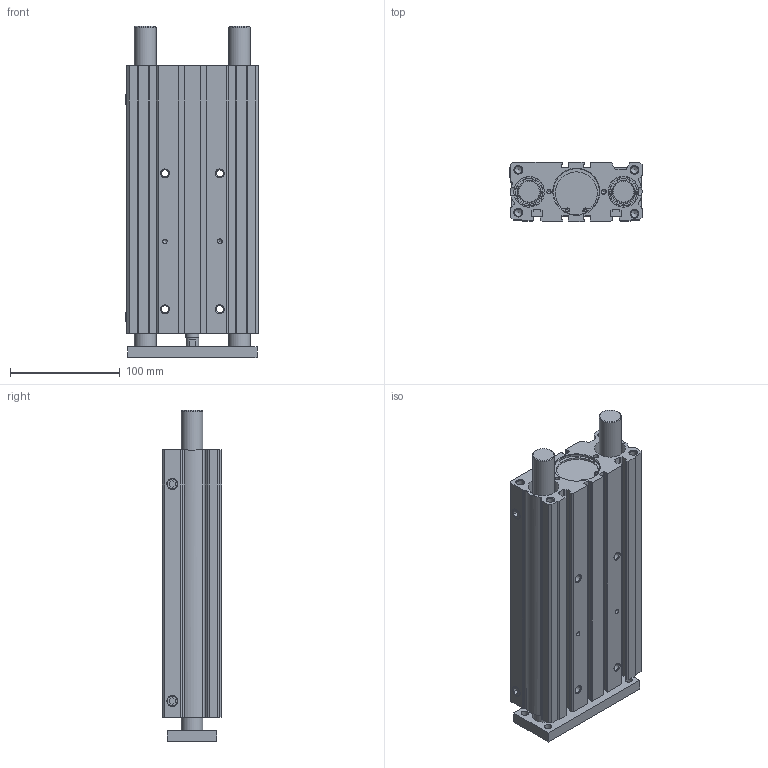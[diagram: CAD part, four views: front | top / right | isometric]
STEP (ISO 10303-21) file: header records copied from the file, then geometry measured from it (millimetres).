
FILE_DESCRIPTION(/* description */ ('Unknown'),/* implementation_level */ '2;1');
FILE_NAME(/* name */ 'EDMT 40_200',/* time_stamp */ '2025-01-30T09:46:21+01:00',/* author */ ('Unknown'),/* organization */ ('HAFNER Pneumatika Kft'),/* preprocessor_version */ 'ST-DEVELOPER v16.7',/* originating_system */ 'Solid Edge',/* authorisation */ 'Unknown');
FILE_SCHEMA (('AUTOMOTIVE_DESIGN {1 0 10303 214 3 1 1}'));
Length unit declared in the file: millimetre
Products named in the file (3): EDMT 40_200; Platte; Gehäuse
Assembly tree (2 placements, depth 2):
  EDMT 40_200
    Platte
    Gehäuse
Bounding box: 120.6 x 54 x 302 mm (x, y, z)
Volume: 1138666.9 mm3; surface area: 271614.2 mm2
Topology: 2 solids, 3 shells, 373 faces, 971 edges, 645 vertices
Faces by surface type: plane 181, cylinder 139, cone 47, torus 6
Full cylindrical faces by diameter (mm): 2.5 x4, 4 x6, 4.5 x2, 6.5 x4, 6.647 x16, 8.566 x2, 10 x3, 10.5 x1, 11 x4, 11.5 x1, 12 x2, 12.72 x1, 13 x2, 13.5 x2, 13.7 x1, 16.5 x2, 20 x2, 21 x2, 25.2 x2, 26 x1, 28 x4, 40 x2, 41.9 x1, 42 x4, 44.5 x2
Entity records: 12978 total; most frequent: DIRECTION 1820, CARTESIAN_POINT 1795, ORIENTED_EDGE 1544, EDGE_CURVE 772, AXIS2_PLACEMENT_3D 697, VERTEX_POINT 585, FACE_BOUND 583, EDGE_LOOP 572
